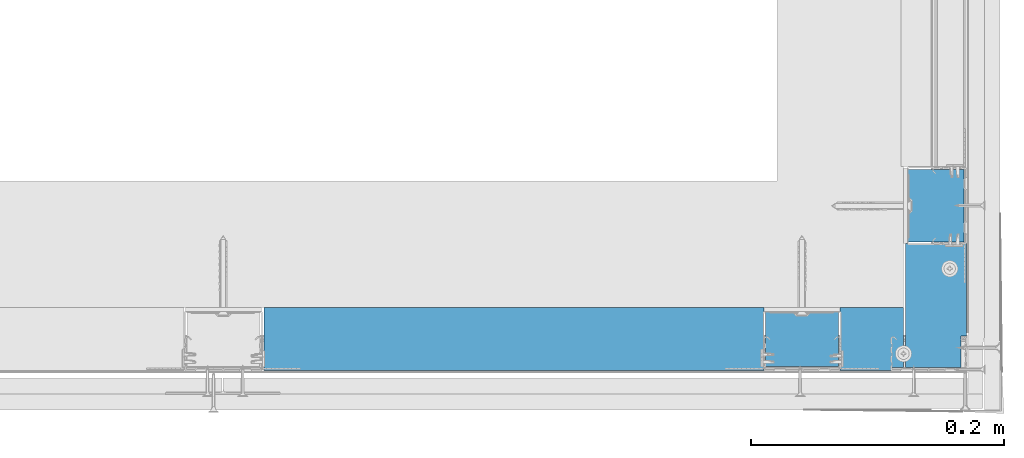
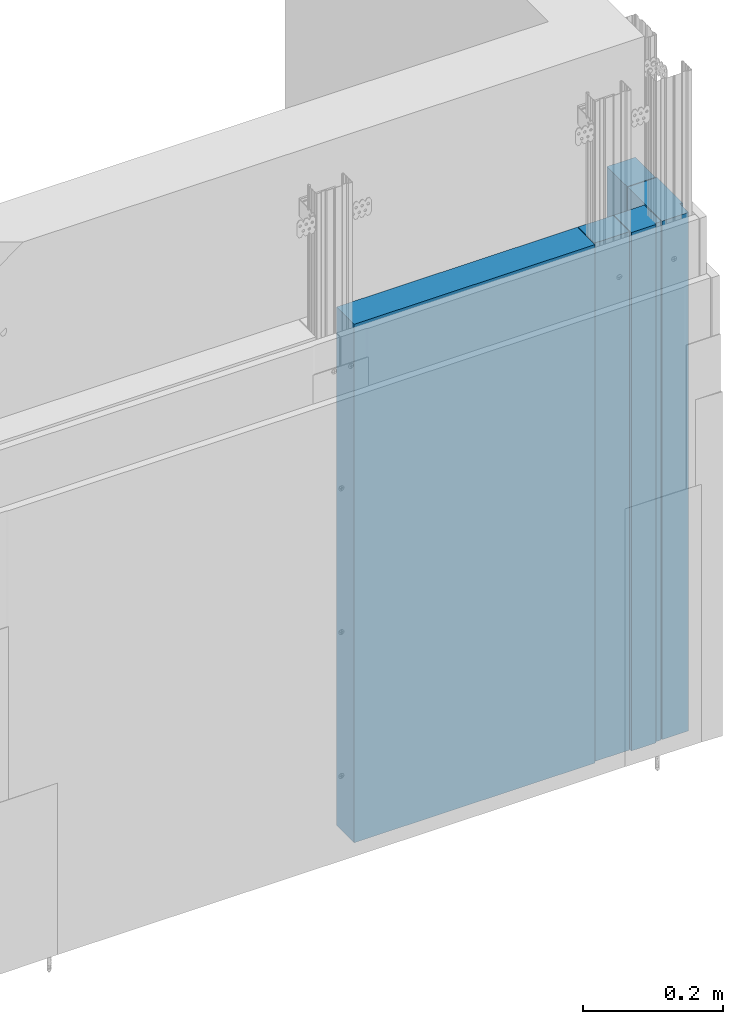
# One storey, part 7 of 56: 5 walls.
"""IFC2X3 building model written with IfcOpenShell, lengths in millimetres."""

from ifc_helpers import new_model, entity, si_unit, converted_unit, direction, frame, origin, origin_with_axes, place, context, project, spatial, faceted_brep, element, save


model = new_model("IFC2X3")

# Units and contexts
model_context = context("Model", 3, precision=1e-05, world=origin(), true_north=direction((0.0, 1.0, 0.0)))
ifc_project = project(units=[si_unit("LENGTHUNIT", "METRE", prefix="MILLI"), si_unit("AREAUNIT", "SQUARE_METRE"), si_unit("VOLUMEUNIT", "CUBIC_METRE"), converted_unit("PLANEANGLEUNIT", "DEGREE", entity("IfcPlaneAngleMeasure", 0.01745), si_unit("PLANEANGLEUNIT", "RADIAN"), dimensions=[0, 0, 0, 0, 0, 0, 0]), si_unit("SOLIDANGLEUNIT", "STERADIAN"), si_unit("MASSUNIT", "GRAM"), si_unit("TIMEUNIT", "SECOND"), si_unit("THERMODYNAMICTEMPERATUREUNIT", "DEGREE_CELSIUS"), si_unit("LUMINOUSINTENSITYUNIT", "LUMEN")], contexts=[model_context])

# Site, building, storey
site_placement = place(None, origin_with_axes())
site = spatial("IfcSite", under=ifc_project, at=site_placement, Name="Default Site", CompositionType="ELEMENT")
building_placement = place(site_placement, origin_with_axes())
building = spatial("IfcBuilding", under=site, at=building_placement, Name="Default Building", CompositionType="ELEMENT")
storey_placement = place(building_placement, origin_with_axes())
storey = spatial("IfcBuildingStorey", under=building, at=storey_placement, Name="Default Building Storey", CompositionType="ELEMENT", Elevation=0.0)

# Walls
wall_1_placement = place(storey_placement, frame((7119.323841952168, 2240.800815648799, -2.349999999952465), z_axis=(0.0, 0.0, 1.0), x_axis=(1.443289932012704e-14, 1.0, 0.0)))
element("IfcWall", 1, at=wall_1_placement, inside=storey, Name="Wypełnienie z wełny mineralnej szklanej ISOVER", context=model_context, shape_type="Brep", body=[
    faceted_brep([(-241.2098929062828, 3326.283223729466, 10.28402578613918), (-241.2098929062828, 3326.283223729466, 911.5435974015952), (-241.2098929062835, 3330.90996508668, 911.5435974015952), (-241.2098929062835, 3330.90996508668, 10.28402578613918), (-266.2098929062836, 3330.909965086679, 10.28402578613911), (-266.2098929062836, 3330.909965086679, 911.5435974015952), (-168.1247796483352, 3326.283223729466, 911.5435974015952), (-168.1247796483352, 3326.283223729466, 10.28402578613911), (-168.124779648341, 3370.612995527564, 10.28402578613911), (-168.124779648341, 3370.612995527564, 911.5435974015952), (-266.2098929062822, 3374.833223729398, 911.5435974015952), (-168.1247796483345, 3374.833223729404, 911.5435974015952), (-168.1247796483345, 3374.833223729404, 10.28402578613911), (-266.2098929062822, 3374.833223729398, 10.28402578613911)], [[[0, 1, 2, 3]], [[4, 3, 2, 5]], [[6, 1, 0, 7]], [[7, 8, 9, 6]], [[10, 11, 12, 13]], [[5, 10, 13, 4]], [[12, 8, 7, 0, 3, 4, 13]], [[1, 6, 9, 11, 10, 5, 2]], [[9, 8, 12, 11]]]),
])
wall_2_placement = place(storey_placement, frame((3465.818779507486, 5350.42414647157, -2.349999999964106), z_axis=(0.0, 0.0, 1.0), x_axis=(-1.0, 4.718447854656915e-16, 0.0)))
element("IfcWall", 2, at=wall_2_placement, inside=storey, Name="Wypełnienie z wełny mineralnej szklanej ISOVER", context=model_context, shape_type="Brep", body=[
    faceted_brep([(-168.1247796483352, 3328.283223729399, 911.5435974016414), (-225.8247796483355, 3328.283223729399, 911.5435974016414), (-225.8247796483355, 3328.283223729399, 10.28402578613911), (-168.1247796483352, 3328.283223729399, 10.28402578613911), (-168.1247796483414, 3370.612995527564, 10.28402578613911), (-168.1247796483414, 3370.612995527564, 911.5435974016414), (-225.8247796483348, 3374.8332237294, 911.5435974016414), (-168.1247796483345, 3374.833223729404, 911.5435974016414), (-168.1247796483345, 3374.833223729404, 10.28402578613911), (-225.8247796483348, 3374.8332237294, 10.28402578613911)], [[[0, 1, 2, 3]], [[3, 4, 5, 0]], [[6, 7, 8, 9]], [[1, 6, 9, 2]], [[8, 4, 3, 2, 9]], [[1, 0, 5, 7, 6]], [[5, 4, 8, 7]]]),
])
wall_3_placement = place(storey_placement, frame((3524.668779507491, 5350.42414647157, -2.349999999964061), z_axis=(0.0, 0.0, 1.0), x_axis=(-1.0, 4.718447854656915e-16, 0.0)))
element("IfcWall", 3, at=wall_3_placement, inside=storey, Name="Wypełnienie z wełny mineralnej szklanej ISOVER", context=model_context, shape_type="Brep", body=[
    faceted_brep([(-208.3786101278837, 3378.283223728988, 911.543597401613), (-208.3786101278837, 3378.283223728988, 10.28402578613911), (-208.378610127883, 3375.833223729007, 10.28402578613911), (-208.378610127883, 3375.833223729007, 911.543597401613), (-218.3718387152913, 3375.833223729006, 911.5435974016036), (-218.3718387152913, 3375.833223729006, 10.28402578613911), (-168.1247796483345, 3378.283223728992, 10.28402578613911), (-168.1247796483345, 3378.283223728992, 911.5435974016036), (-168.1247796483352, 3328.283223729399, 911.5435974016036), (-218.3718387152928, 3328.283223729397, 911.5435974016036), (-218.3718387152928, 3328.283223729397, 10.28402578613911), (-168.1247796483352, 3328.283223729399, 10.28402578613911), (-168.124779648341, 3370.612995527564, 10.28402578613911), (-168.124779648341, 3370.612995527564, 911.5435974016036)], [[[0, 1, 2, 3]], [[4, 3, 2, 5]], [[6, 1, 0, 7]], [[8, 9, 10, 11]], [[11, 12, 13, 8]], [[9, 4, 5, 10]], [[6, 12, 11, 10, 5, 2, 1]], [[9, 8, 13, 7, 0, 3, 4]], [[13, 12, 6, 7]]]),
])
wall_4_placement = place(storey_placement, frame((7119.323841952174, 2299.650815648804, -2.34999999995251), z_axis=(0.0, 0.0, 1.0), x_axis=(1.443289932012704e-14, 1.0, 0.0)))
element("IfcWall", 4, at=wall_4_placement, inside=storey, Name="Wypełnienie z wełny mineralnej szklanej ISOVER", context=model_context, shape_type="Brep", body=[
    faceted_brep([(-168.1247796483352, 3328.283223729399, 911.5435974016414), (-225.8247796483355, 3328.283223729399, 911.5435974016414), (-225.8247796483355, 3328.283223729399, 10.28402578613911), (-168.1247796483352, 3328.283223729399, 10.28402578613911), (-168.1247796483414, 3370.612995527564, 10.28402578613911), (-168.1247796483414, 3370.612995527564, 911.5435974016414), (-225.8247796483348, 3374.8332237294, 911.5435974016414), (-168.1247796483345, 3374.833223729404, 911.5435974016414), (-168.1247796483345, 3374.833223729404, 10.28402578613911), (-225.8247796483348, 3374.8332237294, 10.28402578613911)], [[[0, 1, 2, 3]], [[3, 4, 5, 0]], [[6, 7, 8, 9]], [[1, 6, 9, 2]], [[8, 4, 3, 2, 9]], [[1, 0, 5, 7, 6]], [[5, 4, 8, 7]]]),
])
wall_5_placement = place(storey_placement, frame((3068.668779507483, 5350.424146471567, -2.349999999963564), z_axis=(0.0, 0.0, 1.0), x_axis=(-1.0, 4.718447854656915e-16, 0.0)))
element("IfcWall", 5, at=wall_5_placement, inside=storey, Name="Wypełnienie z wełny mineralnej szklanej ISOVER", context=model_context, shape_type="Brep", body=[
    faceted_brep([(-168.1247796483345, 3328.283223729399, 10.28402578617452), (-168.124779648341, 3370.612995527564, 10.28402578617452), (-168.124779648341, 3370.612995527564, 911.5435974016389), (-168.1247796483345, 3328.283223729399, 911.5435974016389), (-564.1247796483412, 3378.283223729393, 911.5435974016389), (-168.1247796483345, 3378.283223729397, 911.5435974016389), (-168.1247796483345, 3378.283223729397, 10.28402578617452), (-564.1247796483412, 3378.283223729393, 10.28402578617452), (-564.1247796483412, 3328.283223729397, 911.5435974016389), (-564.1247796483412, 3328.283223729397, 10.28402578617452)], [[[0, 1, 2, 3]], [[4, 5, 6, 7]], [[8, 4, 7, 9]], [[6, 1, 0, 9, 7]], [[8, 3, 2, 5, 4]], [[9, 0, 3, 8]], [[2, 1, 6, 5]]]),
])

save(model, "model.ifc")
